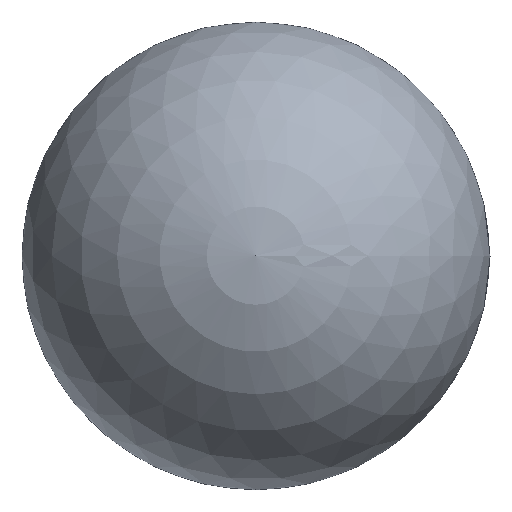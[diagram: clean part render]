
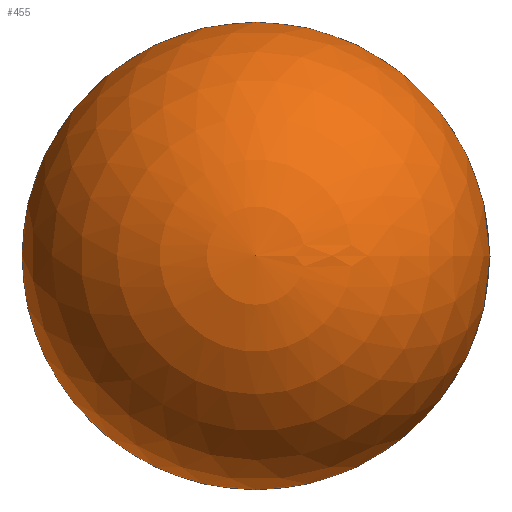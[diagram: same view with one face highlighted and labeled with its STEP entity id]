
A CAD part, top view. The second image highlights one B-rep face of the part: STEP entity #455.
In plain terms, the highlighted spherical face has radius 8 mm.
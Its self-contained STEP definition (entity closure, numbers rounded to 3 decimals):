
#298 = CONICAL_SURFACE('',#299,5.549,1.064);
#299 = AXIS2_PLACEMENT_3D('',#300,#301,#302);
#300 = CARTESIAN_POINT('',(0.,0.,1.));
#301 = DIRECTION('',(0.,0.,1.));
#302 = DIRECTION('',(1.,0.,-0.));
#350 = VERTEX_POINT('',#351);
#351 = CARTESIAN_POINT('',(5.869,0.,
    1.178));
#374 = EDGE_CURVE('',#350,#350,#375,.T.);
#375 = SURFACE_CURVE('',#376,(#381,#388),.PCURVE_S1.);
#376 = CIRCLE('',#377,5.869);
#377 = AXIS2_PLACEMENT_3D('',#378,#379,#380);
#378 = CARTESIAN_POINT('',(0.,0.,1.178));
#379 = DIRECTION('',(0.,0.,1.));
#380 = DIRECTION('',(0.,-1.,0.));
#381 = PCURVE('',#298,#382);
#382 = DEFINITIONAL_REPRESENTATION('',(#383),#387);
#383 = LINE('',#384,#385);
#384 = CARTESIAN_POINT('',(-1.571,0.178));
#385 = VECTOR('',#386,1.);
#386 = DIRECTION('',(1.,0.));
#387 = ( GEOMETRIC_REPRESENTATION_CONTEXT(2) 
PARAMETRIC_REPRESENTATION_CONTEXT() REPRESENTATION_CONTEXT('2D SPACE',''
  ) );
#388 = PCURVE('',#389,#394);
#389 = SPHERICAL_SURFACE('',#390,8.);
#390 = AXIS2_PLACEMENT_3D('',#391,#392,#393);
#391 = CARTESIAN_POINT('',(0.,0.,6.614));
#392 = DIRECTION('',(0.,0.,1.));
#393 = DIRECTION('',(1.,0.,-0.));
#394 = DEFINITIONAL_REPRESENTATION('',(#395),#399);
#395 = LINE('',#396,#397);
#396 = CARTESIAN_POINT('',(-1.571,-0.747));
#397 = VECTOR('',#398,1.);
#398 = DIRECTION('',(1.,0.));
#399 = ( GEOMETRIC_REPRESENTATION_CONTEXT(2) 
PARAMETRIC_REPRESENTATION_CONTEXT() REPRESENTATION_CONTEXT('2D SPACE',''
  ) );
#455 = ADVANCED_FACE('',(#456),#389,.T.);
#456 = FACE_BOUND('',#457,.T.);
#457 = EDGE_LOOP('',(#458,#459,#483));
#458 = ORIENTED_EDGE('',*,*,#374,.T.);
#459 = ORIENTED_EDGE('',*,*,#460,.T.);
#460 = EDGE_CURVE('',#350,#461,#463,.T.);
#461 = VERTEX_POINT('',#462);
#462 = CARTESIAN_POINT('',(0.,0.,
    14.614));
#463 = SEAM_CURVE('',#464,(#469,#476),.PCURVE_S1.);
#464 = CIRCLE('',#465,8.);
#465 = AXIS2_PLACEMENT_3D('',#466,#467,#468);
#466 = CARTESIAN_POINT('',(0.,0.,6.614));
#467 = DIRECTION('',(0.,-1.,0.));
#468 = DIRECTION('',(1.,0.,0.));
#469 = PCURVE('',#389,#470);
#470 = DEFINITIONAL_REPRESENTATION('',(#471),#475);
#471 = LINE('',#472,#473);
#472 = CARTESIAN_POINT('',(0.,-6.283));
#473 = VECTOR('',#474,1.);
#474 = DIRECTION('',(0.,1.));
#475 = ( GEOMETRIC_REPRESENTATION_CONTEXT(2) 
PARAMETRIC_REPRESENTATION_CONTEXT() REPRESENTATION_CONTEXT('2D SPACE',''
  ) );
#476 = PCURVE('',#389,#477);
#477 = DEFINITIONAL_REPRESENTATION('',(#478),#482);
#478 = LINE('',#479,#480);
#479 = CARTESIAN_POINT('',(6.283,-6.283));
#480 = VECTOR('',#481,1.);
#481 = DIRECTION('',(0.,1.));
#482 = ( GEOMETRIC_REPRESENTATION_CONTEXT(2) 
PARAMETRIC_REPRESENTATION_CONTEXT() REPRESENTATION_CONTEXT('2D SPACE',''
  ) );
#483 = ORIENTED_EDGE('',*,*,#460,.F.);
